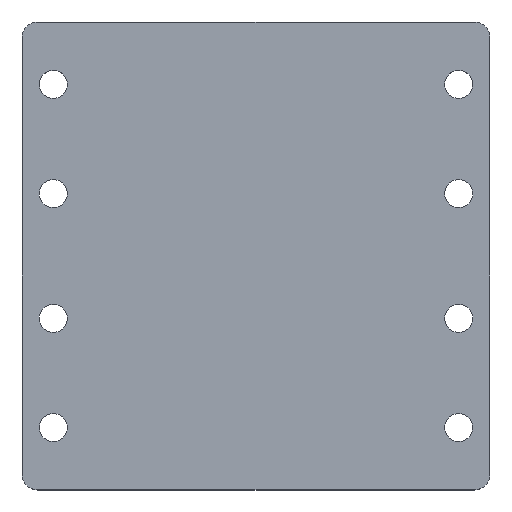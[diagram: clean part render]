
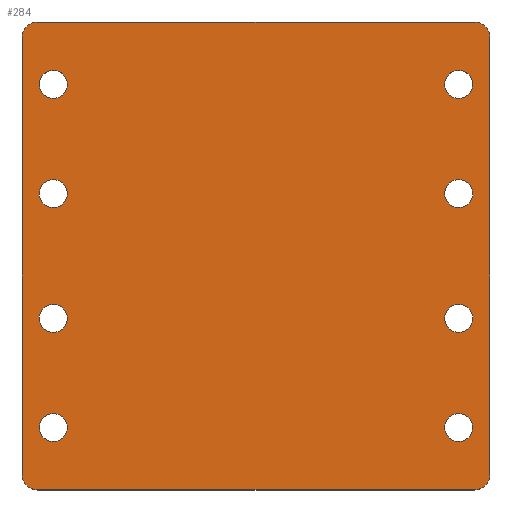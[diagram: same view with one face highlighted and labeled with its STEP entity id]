
A CAD part, top view. The second image highlights one B-rep face of the part: STEP entity #284.
In plain terms, the highlighted planar face has unit normal (0, 0, 1).
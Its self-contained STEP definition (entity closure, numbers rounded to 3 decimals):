
#24 = VERTEX_POINT('',#25);
#25 = CARTESIAN_POINT('',(-70.,-75.,12.));
#31 = EDGE_CURVE('',#24,#32,#34,.T.);
#32 = VERTEX_POINT('',#33);
#33 = CARTESIAN_POINT('',(70.,-75.,12.));
#34 = LINE('',#35,#36);
#35 = CARTESIAN_POINT('',(-70.,-75.,12.));
#36 = VECTOR('',#37,1.);
#37 = DIRECTION('',(1.,0.,0.));
#64 = VERTEX_POINT('',#65);
#65 = CARTESIAN_POINT('',(-75.,-70.,12.));
#71 = EDGE_CURVE('',#64,#24,#72,.T.);
#72 = CIRCLE('',#73,5.);
#73 = AXIS2_PLACEMENT_3D('',#74,#75,#76);
#74 = CARTESIAN_POINT('',(-70.,-70.,12.));
#75 = DIRECTION('',(0.,0.,1.));
#76 = DIRECTION('',(1.,0.,0.));
#95 = EDGE_CURVE('',#32,#96,#98,.T.);
#96 = VERTEX_POINT('',#97);
#97 = CARTESIAN_POINT('',(75.,-70.,12.));
#98 = CIRCLE('',#99,5.);
#99 = AXIS2_PLACEMENT_3D('',#100,#101,#102);
#100 = CARTESIAN_POINT('',(70.,-70.,12.));
#101 = DIRECTION('',(0.,0.,1.));
#102 = DIRECTION('',(1.,0.,0.));
#284 = ADVANCED_FACE('',(#285,#330,#341,#352,#363,#374,#385,#396,#407),
  #418,.T.);
#285 = FACE_BOUND('',#286,.T.);
#286 = EDGE_LOOP('',(#287,#288,#289,#297,#306,#314,#323,#329));
#287 = ORIENTED_EDGE('',*,*,#31,.T.);
#288 = ORIENTED_EDGE('',*,*,#95,.T.);
#289 = ORIENTED_EDGE('',*,*,#290,.T.);
#290 = EDGE_CURVE('',#96,#291,#293,.T.);
#291 = VERTEX_POINT('',#292);
#292 = CARTESIAN_POINT('',(75.,70.,12.));
#293 = LINE('',#294,#295);
#294 = CARTESIAN_POINT('',(75.,-70.,12.));
#295 = VECTOR('',#296,1.);
#296 = DIRECTION('',(0.,1.,0.));
#297 = ORIENTED_EDGE('',*,*,#298,.T.);
#298 = EDGE_CURVE('',#291,#299,#301,.T.);
#299 = VERTEX_POINT('',#300);
#300 = CARTESIAN_POINT('',(70.,75.,12.));
#301 = CIRCLE('',#302,5.);
#302 = AXIS2_PLACEMENT_3D('',#303,#304,#305);
#303 = CARTESIAN_POINT('',(70.,70.,12.));
#304 = DIRECTION('',(0.,0.,1.));
#305 = DIRECTION('',(1.,0.,0.));
#306 = ORIENTED_EDGE('',*,*,#307,.T.);
#307 = EDGE_CURVE('',#299,#308,#310,.T.);
#308 = VERTEX_POINT('',#309);
#309 = CARTESIAN_POINT('',(-70.,75.,12.));
#310 = LINE('',#311,#312);
#311 = CARTESIAN_POINT('',(70.,75.,12.));
#312 = VECTOR('',#313,1.);
#313 = DIRECTION('',(-1.,0.,0.));
#314 = ORIENTED_EDGE('',*,*,#315,.T.);
#315 = EDGE_CURVE('',#308,#316,#318,.T.);
#316 = VERTEX_POINT('',#317);
#317 = CARTESIAN_POINT('',(-75.,70.,12.));
#318 = CIRCLE('',#319,5.);
#319 = AXIS2_PLACEMENT_3D('',#320,#321,#322);
#320 = CARTESIAN_POINT('',(-70.,70.,12.));
#321 = DIRECTION('',(0.,0.,1.));
#322 = DIRECTION('',(1.,0.,0.));
#323 = ORIENTED_EDGE('',*,*,#324,.T.);
#324 = EDGE_CURVE('',#316,#64,#325,.T.);
#325 = LINE('',#326,#327);
#326 = CARTESIAN_POINT('',(-75.,70.,12.));
#327 = VECTOR('',#328,1.);
#328 = DIRECTION('',(0.,-1.,0.));
#329 = ORIENTED_EDGE('',*,*,#71,.T.);
#330 = FACE_BOUND('',#331,.T.);
#331 = EDGE_LOOP('',(#332));
#332 = ORIENTED_EDGE('',*,*,#333,.F.);
#333 = EDGE_CURVE('',#334,#334,#336,.T.);
#334 = VERTEX_POINT('',#335);
#335 = CARTESIAN_POINT('',(-60.5,-55.,12.));
#336 = CIRCLE('',#337,4.5);
#337 = AXIS2_PLACEMENT_3D('',#338,#339,#340);
#338 = CARTESIAN_POINT('',(-65.,-55.,12.));
#339 = DIRECTION('',(0.,0.,1.));
#340 = DIRECTION('',(1.,0.,0.));
#341 = FACE_BOUND('',#342,.T.);
#342 = EDGE_LOOP('',(#343));
#343 = ORIENTED_EDGE('',*,*,#344,.F.);
#344 = EDGE_CURVE('',#345,#345,#347,.T.);
#345 = VERTEX_POINT('',#346);
#346 = CARTESIAN_POINT('',(-60.5,-20.,12.));
#347 = CIRCLE('',#348,4.5);
#348 = AXIS2_PLACEMENT_3D('',#349,#350,#351);
#349 = CARTESIAN_POINT('',(-65.,-20.,12.));
#350 = DIRECTION('',(0.,0.,1.));
#351 = DIRECTION('',(1.,0.,0.));
#352 = FACE_BOUND('',#353,.T.);
#353 = EDGE_LOOP('',(#354));
#354 = ORIENTED_EDGE('',*,*,#355,.F.);
#355 = EDGE_CURVE('',#356,#356,#358,.T.);
#356 = VERTEX_POINT('',#357);
#357 = CARTESIAN_POINT('',(69.5,-55.,12.));
#358 = CIRCLE('',#359,4.5);
#359 = AXIS2_PLACEMENT_3D('',#360,#361,#362);
#360 = CARTESIAN_POINT('',(65.,-55.,12.));
#361 = DIRECTION('',(0.,0.,1.));
#362 = DIRECTION('',(1.,0.,0.));
#363 = FACE_BOUND('',#364,.T.);
#364 = EDGE_LOOP('',(#365));
#365 = ORIENTED_EDGE('',*,*,#366,.F.);
#366 = EDGE_CURVE('',#367,#367,#369,.T.);
#367 = VERTEX_POINT('',#368);
#368 = CARTESIAN_POINT('',(69.5,-20.,12.));
#369 = CIRCLE('',#370,4.5);
#370 = AXIS2_PLACEMENT_3D('',#371,#372,#373);
#371 = CARTESIAN_POINT('',(65.,-20.,12.));
#372 = DIRECTION('',(0.,0.,1.));
#373 = DIRECTION('',(1.,0.,0.));
#374 = FACE_BOUND('',#375,.T.);
#375 = EDGE_LOOP('',(#376));
#376 = ORIENTED_EDGE('',*,*,#377,.F.);
#377 = EDGE_CURVE('',#378,#378,#380,.T.);
#378 = VERTEX_POINT('',#379);
#379 = CARTESIAN_POINT('',(-60.5,20.,12.));
#380 = CIRCLE('',#381,4.5);
#381 = AXIS2_PLACEMENT_3D('',#382,#383,#384);
#382 = CARTESIAN_POINT('',(-65.,20.,12.));
#383 = DIRECTION('',(0.,0.,1.));
#384 = DIRECTION('',(1.,0.,0.));
#385 = FACE_BOUND('',#386,.T.);
#386 = EDGE_LOOP('',(#387));
#387 = ORIENTED_EDGE('',*,*,#388,.F.);
#388 = EDGE_CURVE('',#389,#389,#391,.T.);
#389 = VERTEX_POINT('',#390);
#390 = CARTESIAN_POINT('',(-60.5,55.,12.));
#391 = CIRCLE('',#392,4.5);
#392 = AXIS2_PLACEMENT_3D('',#393,#394,#395);
#393 = CARTESIAN_POINT('',(-65.,55.,12.));
#394 = DIRECTION('',(0.,0.,1.));
#395 = DIRECTION('',(1.,0.,0.));
#396 = FACE_BOUND('',#397,.T.);
#397 = EDGE_LOOP('',(#398));
#398 = ORIENTED_EDGE('',*,*,#399,.F.);
#399 = EDGE_CURVE('',#400,#400,#402,.T.);
#400 = VERTEX_POINT('',#401);
#401 = CARTESIAN_POINT('',(69.5,20.,12.));
#402 = CIRCLE('',#403,4.5);
#403 = AXIS2_PLACEMENT_3D('',#404,#405,#406);
#404 = CARTESIAN_POINT('',(65.,20.,12.));
#405 = DIRECTION('',(0.,0.,1.));
#406 = DIRECTION('',(1.,0.,0.));
#407 = FACE_BOUND('',#408,.T.);
#408 = EDGE_LOOP('',(#409));
#409 = ORIENTED_EDGE('',*,*,#410,.F.);
#410 = EDGE_CURVE('',#411,#411,#413,.T.);
#411 = VERTEX_POINT('',#412);
#412 = CARTESIAN_POINT('',(69.5,55.,12.));
#413 = CIRCLE('',#414,4.5);
#414 = AXIS2_PLACEMENT_3D('',#415,#416,#417);
#415 = CARTESIAN_POINT('',(65.,55.,12.));
#416 = DIRECTION('',(0.,0.,1.));
#417 = DIRECTION('',(1.,0.,0.));
#418 = PLANE('',#419);
#419 = AXIS2_PLACEMENT_3D('',#420,#421,#422);
#420 = CARTESIAN_POINT('',(0.,0.,12.)
  );
#421 = DIRECTION('',(0.,0.,1.));
#422 = DIRECTION('',(1.,0.,0.));
